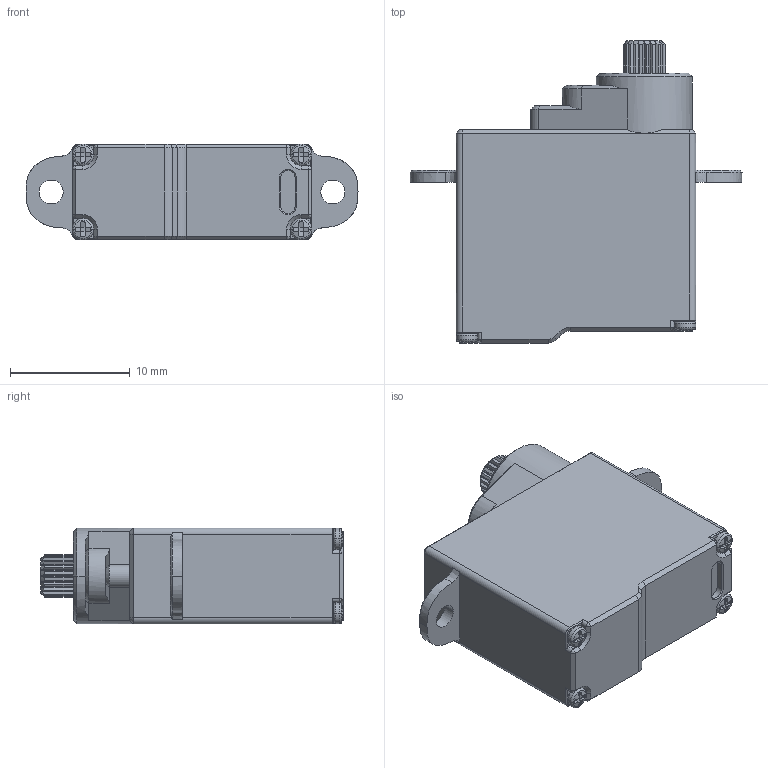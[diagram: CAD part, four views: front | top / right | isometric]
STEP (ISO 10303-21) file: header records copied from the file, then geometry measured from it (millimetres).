
FILE_DESCRIPTION((''),'2;1');
FILE_NAME('DDJ-3O7G-A06-20T','2024-10-23T',('扂'),(''),'PRO/ENGINEER BY PARAMETRIC TECHNOLOGY CORPORATION, 2010280','PRO/ENGINEER BY PARAMETRIC TECHNOLOGY CORPORATION, 2010280','');
FILE_SCHEMA(('CONFIG_CONTROL_DESIGN'));
Length unit declared in the file: millimetre
Products named in the file (1): DDJ-3O7G-A06-20T
Bounding box: 27.7 x 25.2 x 8 mm (x, y, z)
Volume: 3086.6 mm3; surface area: 1603.2 mm2
Topology: 1 solids, 1 shells, 422 faces, 1169 edges, 740 vertices
Faces by surface type: plane 185, cylinder 152, cone 36, bspline 25, torus 16, sphere 8
Entity records: 17277 total; most frequent: CARTESIAN_POINT 6896, ORIENTED_EDGE 2310, DIRECTION 1986, EDGE_CURVE 1155, VERTEX_POINT 740, AXIS2_PLACEMENT_3D 707, VECTOR 572, LINE 572
